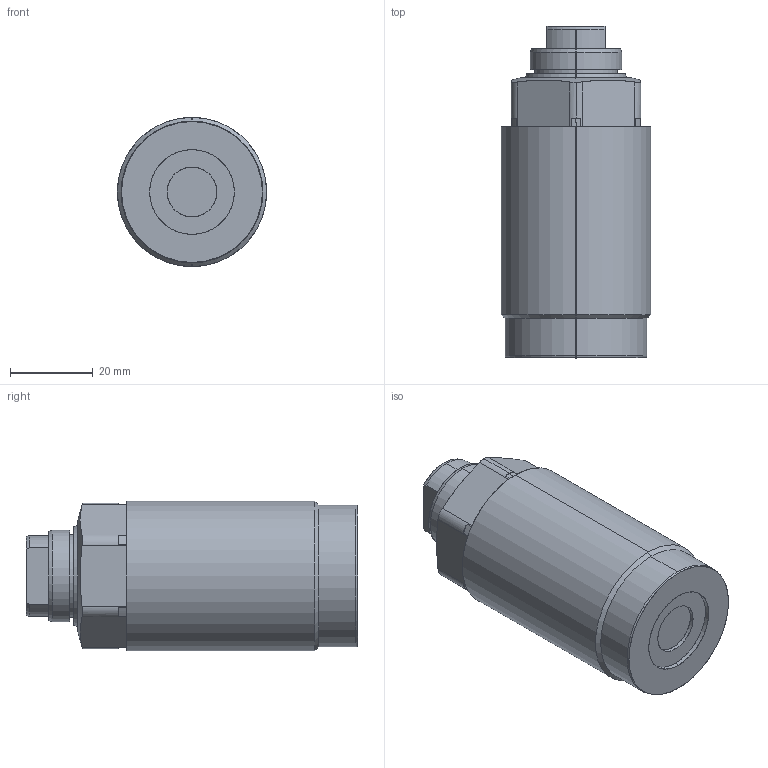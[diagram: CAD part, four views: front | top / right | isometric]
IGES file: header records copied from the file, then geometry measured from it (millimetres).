
Start section: SolidWorks IGES file using analytic representation for surfaces
Global section: file name: E:\karthik\CLASYS\FOR CD\Pneumatics\0211 Work Support(Threaded Body)\pneu advance\0211-0361\0211-0361.IGS; native system: SolidWorks 2010; preprocessor: SolidWorks 2010; author: karthik; date: 130917.154811; units: millimetre
Bounding box: 36 x 80 x 36 mm (x, y, z)
Surface area: 10393.9 mm2 (no closed solid volume)
Topology: 0 solids, 0 shells, 65 faces, 895 edges, 895 vertices
Faces by surface type: revolution 42, bspline 23
